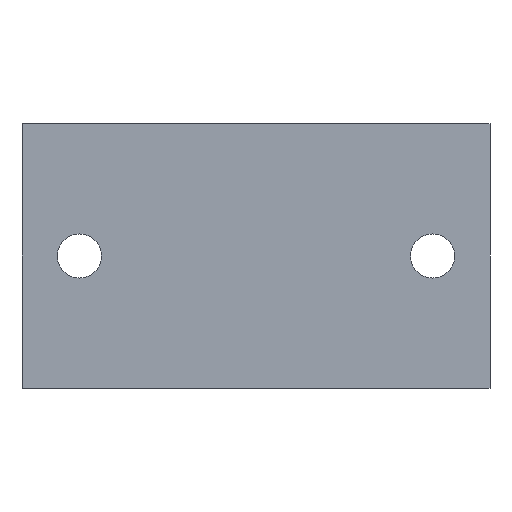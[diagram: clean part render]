
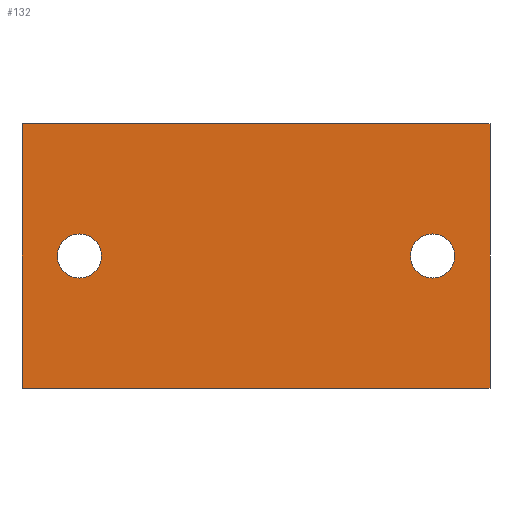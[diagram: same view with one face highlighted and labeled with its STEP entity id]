
A CAD part, front view. The second image highlights one B-rep face of the part: STEP entity #132.
In plain terms, the highlighted planar face has unit normal (0, -1, 0).
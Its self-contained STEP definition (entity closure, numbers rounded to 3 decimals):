
#26 = DIRECTION ( 'NONE',  ( 0., 0., -1. ) ) ;
#88 = VERTEX_POINT ( 'NONE', #329 ) ;
#100 = CARTESIAN_POINT ( 'NONE',  ( -26.5, -22.5, -15. ) ) ;
#123 = DIRECTION ( 'NONE',  ( 1., 0., 0. ) ) ;
#125 = CARTESIAN_POINT ( 'NONE',  ( -20., -22.5, 2.5 ) ) ;
#132 = ADVANCED_FACE ( 'NONE', ( #1033, #690, #475 ), #468, .F. ) ;
#142 = CIRCLE ( 'NONE', #1132, 2.5 ) ;
#149 = VERTEX_POINT ( 'NONE', #1388 ) ;
#160 = EDGE_CURVE ( 'NONE', #727, #459, #1050, .T. ) ;
#175 = EDGE_CURVE ( 'NONE', #727, #1199, #335, .T. ) ;
#177 = EDGE_LOOP ( 'NONE', ( #1332, #192 ) ) ;
#181 = DIRECTION ( 'NONE',  ( 0., 0., -1. ) ) ;
#192 = ORIENTED_EDGE ( 'NONE', *, *, #1432, .F. ) ;
#250 = DIRECTION ( 'NONE',  ( 0., 0., -1. ) ) ;
#269 = DIRECTION ( 'NONE',  ( 0., -1., 0. ) ) ;
#275 = EDGE_CURVE ( 'NONE', #149, #88, #465, .T. ) ;
#276 = VECTOR ( 'NONE', #786, 1000. ) ;
#329 = CARTESIAN_POINT ( 'NONE',  ( 20., -22.5, -2.5 ) ) ;
#335 = LINE ( 'NONE', #1027, #276 ) ;
#342 = ORIENTED_EDGE ( 'NONE', *, *, #962, .F. ) ;
#346 = DIRECTION ( 'NONE',  ( 0., 1., 0. ) ) ;
#370 = CARTESIAN_POINT ( 'NONE',  ( -26.5, -22.5, -15. ) ) ;
#414 = EDGE_LOOP ( 'NONE', ( #342, #1222 ) ) ;
#440 = CARTESIAN_POINT ( 'NONE',  ( 26.5, -22.5, 15. ) ) ;
#455 = AXIS2_PLACEMENT_3D ( 'NONE', #550, #1459, #1357 ) ;
#459 = VERTEX_POINT ( 'NONE', #440 ) ;
#465 = CIRCLE ( 'NONE', #1184, 2.5 ) ;
#468 = PLANE ( 'NONE',  #1212 ) ;
#475 = FACE_OUTER_BOUND ( 'NONE', #651, .T. ) ;
#481 = DIRECTION ( 'NONE',  ( 0., -1., 0. ) ) ;
#520 = ORIENTED_EDGE ( 'NONE', *, *, #175, .T. ) ;
#550 = CARTESIAN_POINT ( 'NONE',  ( -20., -22.5, 0. ) ) ;
#581 = CARTESIAN_POINT ( 'NONE',  ( -26.5, -22.5, 15. ) ) ;
#587 = ORIENTED_EDGE ( 'NONE', *, *, #1294, .T. ) ;
#594 = DIRECTION ( 'NONE',  ( 0., 0., -1. ) ) ;
#609 = CARTESIAN_POINT ( 'NONE',  ( 26.5, -22.5, -15. ) ) ;
#651 = EDGE_LOOP ( 'NONE', ( #587, #1439, #851, #520 ) ) ;
#690 = FACE_BOUND ( 'NONE', #414, .T. ) ;
#702 = VERTEX_POINT ( 'NONE', #609 ) ;
#727 = VERTEX_POINT ( 'NONE', #1487 ) ;
#766 = CIRCLE ( 'NONE', #790, 2.5 ) ;
#786 = DIRECTION ( 'NONE',  ( 0., 0., -1. ) ) ;
#788 = CARTESIAN_POINT ( 'NONE',  ( -20., -22.5, -2.5 ) ) ;
#790 = AXIS2_PLACEMENT_3D ( 'NONE', #1169, #481, #594 ) ;
#817 = VERTEX_POINT ( 'NONE', #788 ) ;
#851 = ORIENTED_EDGE ( 'NONE', *, *, #160, .F. ) ;
#856 = DIRECTION ( 'NONE',  ( 0., -1., 0. ) ) ;
#885 = VERTEX_POINT ( 'NONE', #125 ) ;
#933 = CARTESIAN_POINT ( 'NONE',  ( -26.5, -22.5, 15. ) ) ;
#943 = EDGE_CURVE ( 'NONE', #459, #702, #1295, .T. ) ;
#962 = EDGE_CURVE ( 'NONE', #88, #149, #766, .T. ) ;
#972 = DIRECTION ( 'NONE',  ( 1., 0., 0. ) ) ;
#1027 = CARTESIAN_POINT ( 'NONE',  ( -26.5, -22.5, 15. ) ) ;
#1032 = CIRCLE ( 'NONE', #455, 2.5 ) ;
#1033 = FACE_BOUND ( 'NONE', #177, .T. ) ;
#1050 = LINE ( 'NONE', #933, #1285 ) ;
#1132 = AXIS2_PLACEMENT_3D ( 'NONE', #1415, #269, #26 ) ;
#1161 = CARTESIAN_POINT ( 'NONE',  ( 26.5, -22.5, 15. ) ) ;
#1169 = CARTESIAN_POINT ( 'NONE',  ( 20., -22.5, 0. ) ) ;
#1184 = AXIS2_PLACEMENT_3D ( 'NONE', #1342, #856, #181 ) ;
#1199 = VERTEX_POINT ( 'NONE', #100 ) ;
#1200 = LINE ( 'NONE', #370, #1327 ) ;
#1202 = VECTOR ( 'NONE', #250, 1000. ) ;
#1212 = AXIS2_PLACEMENT_3D ( 'NONE', #581, #346, #1394 ) ;
#1222 = ORIENTED_EDGE ( 'NONE', *, *, #275, .F. ) ;
#1279 = EDGE_CURVE ( 'NONE', #817, #885, #142, .T. ) ;
#1285 = VECTOR ( 'NONE', #123, 1000. ) ;
#1294 = EDGE_CURVE ( 'NONE', #1199, #702, #1200, .T. ) ;
#1295 = LINE ( 'NONE', #1161, #1202 ) ;
#1327 = VECTOR ( 'NONE', #972, 1000. ) ;
#1332 = ORIENTED_EDGE ( 'NONE', *, *, #1279, .F. ) ;
#1342 = CARTESIAN_POINT ( 'NONE',  ( 20., -22.5, 0. ) ) ;
#1357 = DIRECTION ( 'NONE',  ( 0., 0., -1. ) ) ;
#1388 = CARTESIAN_POINT ( 'NONE',  ( 20., -22.5, 2.5 ) ) ;
#1394 = DIRECTION ( 'NONE',  ( 0., 0., 1. ) ) ;
#1415 = CARTESIAN_POINT ( 'NONE',  ( -20., -22.5, 0. ) ) ;
#1432 = EDGE_CURVE ( 'NONE', #885, #817, #1032, .T. ) ;
#1439 = ORIENTED_EDGE ( 'NONE', *, *, #943, .F. ) ;
#1459 = DIRECTION ( 'NONE',  ( 0., -1., 0. ) ) ;
#1487 = CARTESIAN_POINT ( 'NONE',  ( -26.5, -22.5, 15. ) ) ;
